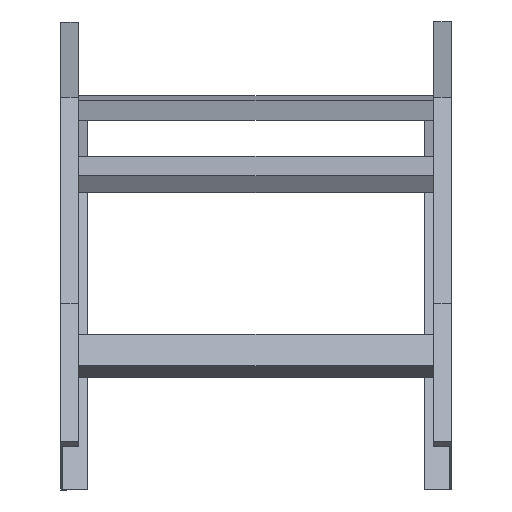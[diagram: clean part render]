
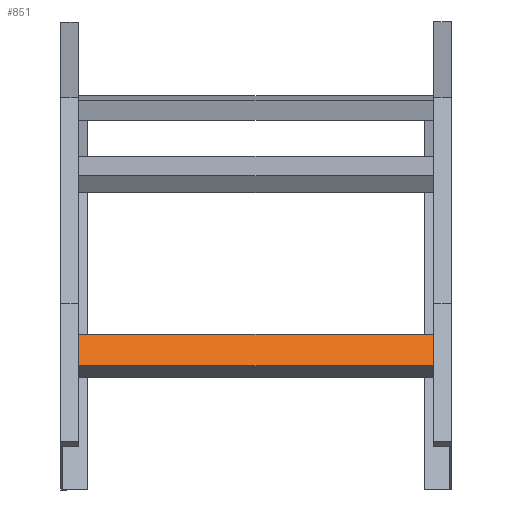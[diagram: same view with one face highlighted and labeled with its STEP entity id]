
A CAD part, top view. The second image highlights one B-rep face of the part: STEP entity #851.
In plain terms, the highlighted planar face has unit normal (0, 0.609, 0.793) as drawn and (0, 1, 0) by its records, which use the part's own axes.
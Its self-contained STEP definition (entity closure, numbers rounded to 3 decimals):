
#8 = EDGE_LOOP ( 'NONE', ( #860, #1132, #594, #215 ) ) ;
#9 = VECTOR ( 'NONE', #1545, 1000. ) ;
#39 = EDGE_CURVE ( 'NONE', #789, #115, #1256, .T. ) ;
#102 = CARTESIAN_POINT ( 'NONE',  ( -198., 20., 20.25 ) ) ;
#115 = VERTEX_POINT ( 'NONE', #1042 ) ;
#145 = PLANE ( 'NONE',  #495 ) ;
#195 = VERTEX_POINT ( 'NONE', #415 ) ;
#215 = ORIENTED_EDGE ( 'NONE', *, *, #1588, .T. ) ;
#331 = CARTESIAN_POINT ( 'NONE',  ( 198., 20., -20.25 ) ) ;
#332 = EDGE_CURVE ( 'NONE', #1549, #195, #1629, .T. ) ;
#415 = CARTESIAN_POINT ( 'NONE',  ( 198., 20., 20.25 ) ) ;
#452 = CARTESIAN_POINT ( 'NONE',  ( 198., 20., 20.25 ) ) ;
#492 = CARTESIAN_POINT ( 'NONE',  ( -198., 20., -20.25 ) ) ;
#495 = AXIS2_PLACEMENT_3D ( 'NONE', #666, #1176, #540 ) ;
#540 = DIRECTION ( 'NONE',  ( 0., 0., -1. ) ) ;
#580 = LINE ( 'NONE', #947, #1159 ) ;
#594 = ORIENTED_EDGE ( 'NONE', *, *, #332, .F. ) ;
#666 = CARTESIAN_POINT ( 'NONE',  ( 198., 20., 20.25 ) ) ;
#789 = VERTEX_POINT ( 'NONE', #492 ) ;
#796 = DIRECTION ( 'NONE',  ( 0., 0., 1. ) ) ;
#821 = DIRECTION ( 'NONE',  ( -1., 0., 0. ) ) ;
#851 = ADVANCED_FACE ( 'NONE', ( #1313 ), #145, .F. ) ;
#860 = ORIENTED_EDGE ( 'NONE', *, *, #39, .T. ) ;
#947 = CARTESIAN_POINT ( 'NONE',  ( 198., 20., -20.25 ) ) ;
#1009 = EDGE_CURVE ( 'NONE', #195, #115, #1262, .T. ) ;
#1042 = CARTESIAN_POINT ( 'NONE',  ( -198., 20., 20.25 ) ) ;
#1132 = ORIENTED_EDGE ( 'NONE', *, *, #1009, .F. ) ;
#1159 = VECTOR ( 'NONE', #821, 1000. ) ;
#1176 = DIRECTION ( 'NONE',  ( 0., -1., 0. ) ) ;
#1244 = CARTESIAN_POINT ( 'NONE',  ( 198., 20., 20.25 ) ) ;
#1256 = LINE ( 'NONE', #102, #9 ) ;
#1262 = LINE ( 'NONE', #1244, #1645 ) ;
#1313 = FACE_OUTER_BOUND ( 'NONE', #8, .T. ) ;
#1408 = DIRECTION ( 'NONE',  ( -1., 0., 0. ) ) ;
#1518 = VECTOR ( 'NONE', #796, 1000. ) ;
#1545 = DIRECTION ( 'NONE',  ( 0., 0., 1. ) ) ;
#1549 = VERTEX_POINT ( 'NONE', #331 ) ;
#1588 = EDGE_CURVE ( 'NONE', #1549, #789, #580, .T. ) ;
#1629 = LINE ( 'NONE', #452, #1518 ) ;
#1645 = VECTOR ( 'NONE', #1408, 1000. ) ;
